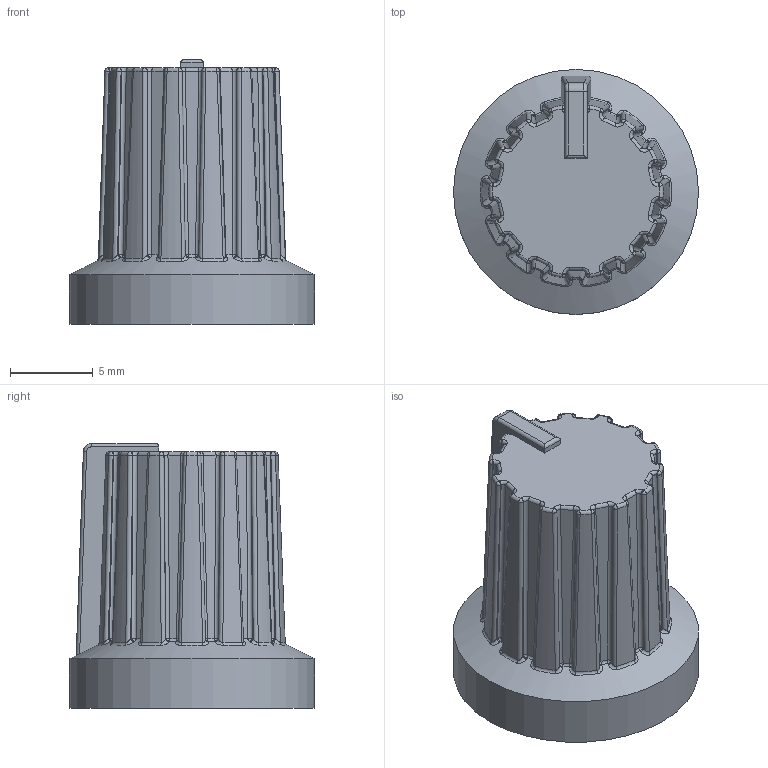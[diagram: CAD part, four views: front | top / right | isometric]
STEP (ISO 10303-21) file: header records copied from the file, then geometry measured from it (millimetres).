
FILE_DESCRIPTION(/* description */ ('STEP AP242 Edition 2','CAx-IF Rec.Pracs.---Representation and Presentation of Product Manufacturing Information (PMI)---4.0---2014-10-13','CAx-IF Rec.Pracs.---3D Tessellated Geometry---0.4---2014-09-14','2;1','CAx-IF Rec.Pracs.---User Defined Attributes---1.5---2016-08-15'),/* implementation_level */ '2;1');
FILE_NAME(/* name */ 'Assembly 1 - Split Line1',/* time_stamp */ '2026-11-02T12:33:14Z',/* author */ (''),/* organization */ (''),/* preprocessor_version */ 'ST-DEVELOPER v20',/* originating_system */ 'ONSHAPE BY PTC INC, 1.223',/* authorisation */ ' ');
FILE_SCHEMA (('AP242_MANAGED_MODEL_BASED_3D_ENGINEERING_MIM_LF { 1 0 10303 442 3 1 4 }'));
Length unit declared in the file: millimetre
Products named in the file (1): Split Line1
Bounding box: 14.8 x 14.8 x 16 mm (x, y, z)
Volume: 1086.3 mm3; surface area: 1313.2 mm2
Topology: 1 solids, 1 shells, 425 faces, 997 edges, 577 vertices
Faces by surface type: cylinder 163, plane 109, torus 84, sphere 54, cone 15
Full cylindrical faces by diameter (mm): 7.2 x1, 12.2 x1, 14.8 x1
Entity records: 13023 total; most frequent: CARTESIAN_POINT 3519, ORIENTED_EDGE 1984, DIRECTION 1581, EDGE_CURVE 992, AXIS2_PLACEMENT_3D 615, VERTEX_POINT 576, B_SPLINE_CURVE_WITH_KNOTS 452, EDGE_LOOP 432
